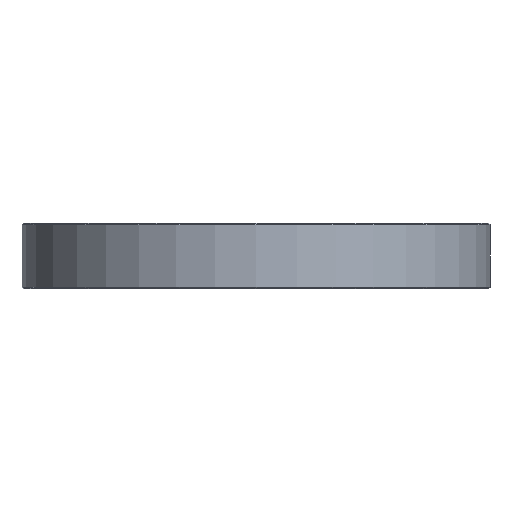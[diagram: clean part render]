
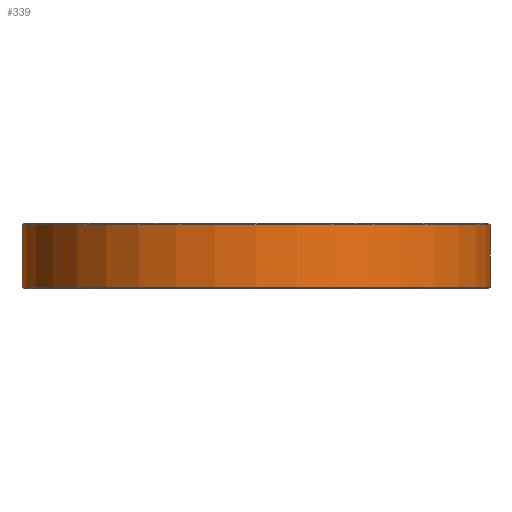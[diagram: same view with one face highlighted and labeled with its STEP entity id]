
A CAD part, front view. The second image highlights one B-rep face of the part: STEP entity #339.
In plain terms, the highlighted cylindrical face has radius 36 mm (diameter 72 mm), a partial arc.
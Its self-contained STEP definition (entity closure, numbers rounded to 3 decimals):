
#7 = DIRECTION ( 'NONE',  ( 0., 0., 1. ) ) ;
#11 = CARTESIAN_POINT ( 'NONE',  ( 36., 0., 10. ) ) ;
#13 = AXIS2_PLACEMENT_3D ( 'NONE', #447, #101, #67 ) ;
#18 = LINE ( 'NONE', #195, #366 ) ;
#31 = VERTEX_POINT ( 'NONE', #360 ) ;
#52 = CARTESIAN_POINT ( 'NONE',  ( 36., 0., 0.2 ) ) ;
#58 = ORIENTED_EDGE ( 'NONE', *, *, #113, .F. ) ;
#67 = DIRECTION ( 'NONE',  ( -1., 0., 0. ) ) ;
#85 = EDGE_CURVE ( 'NONE', #271, #169, #296, .T. ) ;
#93 = CARTESIAN_POINT ( 'NONE',  ( 0., 0., 9.8 ) ) ;
#101 = DIRECTION ( 'NONE',  ( 0., 0., -1. ) ) ;
#110 = LINE ( 'NONE', #11, #229 ) ;
#113 = EDGE_CURVE ( 'NONE', #31, #169, #110, .T. ) ;
#117 = ORIENTED_EDGE ( 'NONE', *, *, #266, .T. ) ;
#133 = CIRCLE ( 'NONE', #395, 36. ) ;
#141 = ORIENTED_EDGE ( 'NONE', *, *, #85, .T. ) ;
#150 = DIRECTION ( 'NONE',  ( 0., 0., -1. ) ) ;
#169 = VERTEX_POINT ( 'NONE', #52 ) ;
#191 = DIRECTION ( 'NONE',  ( 0., 0., -1. ) ) ;
#195 = CARTESIAN_POINT ( 'NONE',  ( -36., 0., 10. ) ) ;
#197 = DIRECTION ( 'NONE',  ( 1., 0., 0. ) ) ;
#229 = VECTOR ( 'NONE', #150, 1000. ) ;
#235 = FACE_OUTER_BOUND ( 'NONE', #326, .T. ) ;
#243 = CARTESIAN_POINT ( 'NONE',  ( -36., 0., 9.8 ) ) ;
#266 = EDGE_CURVE ( 'NONE', #323, #271, #18, .T. ) ;
#271 = VERTEX_POINT ( 'NONE', #332 ) ;
#296 = CIRCLE ( 'NONE', #433, 36. ) ;
#306 = CYLINDRICAL_SURFACE ( 'NONE', #13, 36. ) ;
#314 = EDGE_CURVE ( 'NONE', #31, #323, #133, .T. ) ;
#319 = DIRECTION ( 'NONE',  ( 1., 0., 0. ) ) ;
#320 = ORIENTED_EDGE ( 'NONE', *, *, #314, .T. ) ;
#323 = VERTEX_POINT ( 'NONE', #243 ) ;
#326 = EDGE_LOOP ( 'NONE', ( #58, #320, #117, #141 ) ) ;
#332 = CARTESIAN_POINT ( 'NONE',  ( -36., 0., 0.2 ) ) ;
#339 = ADVANCED_FACE ( 'NONE', ( #235 ), #306, .T. ) ;
#356 = CARTESIAN_POINT ( 'NONE',  ( 0., 0., 0.2 ) ) ;
#360 = CARTESIAN_POINT ( 'NONE',  ( 36., 0., 9.8 ) ) ;
#366 = VECTOR ( 'NONE', #191, 1000. ) ;
#388 = DIRECTION ( 'NONE',  ( 0., 0., -1. ) ) ;
#395 = AXIS2_PLACEMENT_3D ( 'NONE', #93, #388, #197 ) ;
#433 = AXIS2_PLACEMENT_3D ( 'NONE', #356, #7, #319 ) ;
#447 = CARTESIAN_POINT ( 'NONE',  ( 0., 0., 10. ) ) ;
